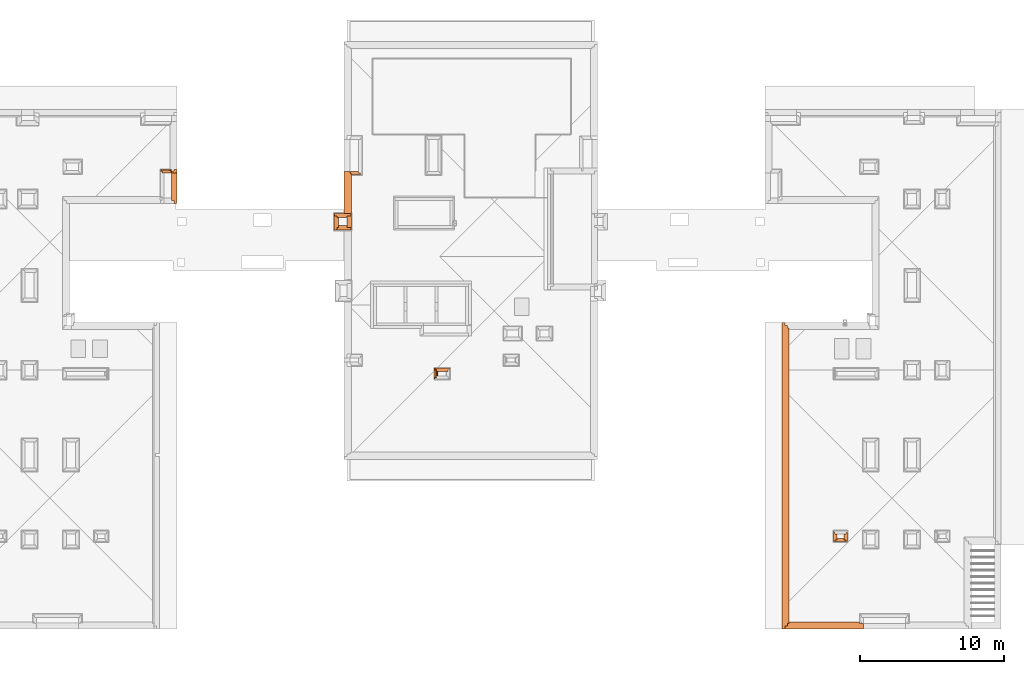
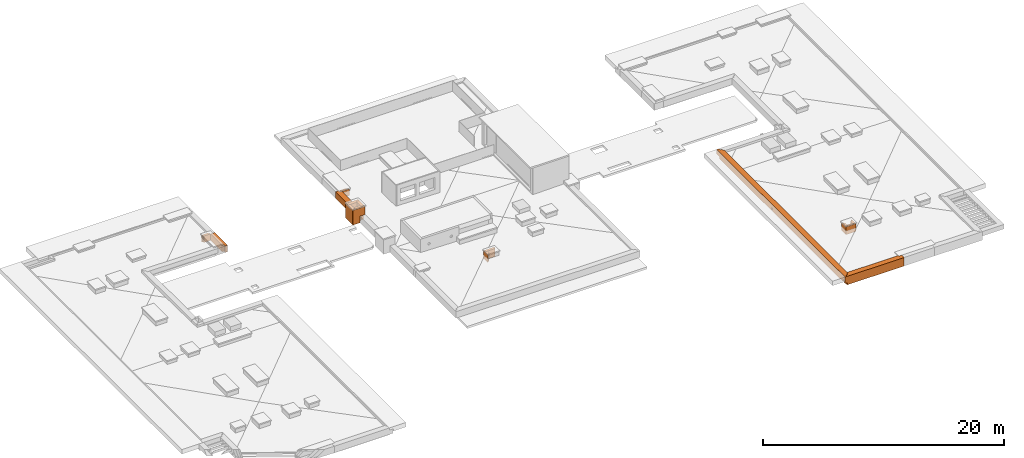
# One storey, part 10 of 16: 15 proxies.
"""IFC2X3 building model written with IfcOpenShell, lengths in millimetres."""

from ifc_helpers import new_model, entity, si_unit, converted_unit, derived_unit, money_unit, direction, frame, origin_with_axes, place, context, subcontext, project, spatial, faceted_brep, material, material_list, type_object, element, save


model = new_model("IFC2X3")

# Units and contexts
model_context = context("Model", 3, precision=0.01, world=origin_with_axes(), true_north=direction((0.34421633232, 0.938890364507)))
body_context = subcontext(model_context, "Body", "Model", "MODEL_VIEW")
ifc_project = project(units=[si_unit("LENGTHUNIT", "METRE", prefix="MILLI"), si_unit("AREAUNIT", "SQUARE_METRE"), si_unit("VOLUMEUNIT", "CUBIC_METRE"), converted_unit("PLANEANGLEUNIT", "DEGREE", entity("IfcPlaneAngleMeasure", 0.0174532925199), si_unit("PLANEANGLEUNIT", "RADIAN"), dimensions=[0, 0, 0, 0, 0, 0, 0]), si_unit("SOLIDANGLEUNIT", "STERADIAN"), money_unit("USD"), converted_unit("TIMEUNIT", "Year", entity("IfcTimeMeasure", 31556926.0), si_unit("TIMEUNIT", "SECOND"), dimensions=[0, 0, 1, 0, 0, 0, 0]), si_unit("MASSUNIT", "GRAM", prefix="KILO"), si_unit("THERMODYNAMICTEMPERATUREUNIT", "DEGREE_CELSIUS"), si_unit("LUMINOUSINTENSITYUNIT", "LUMEN"), si_unit("ENERGYUNIT", "JOULE", prefix="MEGA"), derived_unit("THERMALCONDUCTANCEUNIT", [(si_unit("POWERUNIT", "WATT"), 1), (si_unit("LENGTHUNIT", "METRE"), -1), (si_unit("THERMODYNAMICTEMPERATUREUNIT", "KELVIN"), -1)]), derived_unit("SPECIFICHEATCAPACITYUNIT", [(si_unit("ENERGYUNIT", "JOULE"), 1), (si_unit("MASSUNIT", "GRAM", prefix="KILO"), -1), (si_unit("THERMODYNAMICTEMPERATUREUNIT", "KELVIN"), -1)]), derived_unit("MASSDENSITYUNIT", [(si_unit("MASSUNIT", "GRAM", prefix="KILO"), 1), (si_unit("VOLUMEUNIT", "CUBIC_METRE"), -1)])], contexts=[model_context])

# Site, building, storey
site_placement = place(None, origin_with_axes())
site = spatial("IfcSite", under=ifc_project, at=site_placement, Name="USTRONIE MORSKIE", CompositionType="ELEMENT")
building_placement = place(site_placement, origin_with_axes())
building = spatial("IfcBuilding", under=site, at=building_placement, Name="Budynek", CompositionType="ELEMENT")
storey_placement = place(building_placement, frame((0.0, 0.0, 19000.0), z_axis=(0.0, 0.0, 1.0), x_axis=(1.0, 0.0, 0.0)))
storey = spatial("IfcBuildingStorey", under=building, at=storey_placement, Name="DACH", CompositionType="ELEMENT", Elevation=19000.0)

# Proxies
ifc_material_1 = material(Name="Tynk zewnętrzny")
ifc_material_2 = material(Name="Wełna ELEW")
ifc_material_3 = material(Name="Bloczki silikatowe")
ifc_material_list_1 = material_list([ifc_material_1, ifc_material_2, ifc_material_3, ifc_material_2, ifc_material_1])
building_element_proxy_type_1 = type_object("IfcBuildingElementProxyType", Name="18 SILIKAT+20-10 500", PredefinedType="NOTDEFINED")
proxy_1_placement = place(storey_placement, frame((379217.920919, 737501.202288, -160.0), z_axis=(0.0, 0.0, 1.0), x_axis=(0.0, 1.0, 0.0)))
element("IfcBuildingElementProxy", 1, at=proxy_1_placement, inside=storey, type_object=building_element_proxy_type_1, material=ifc_material_list_1, Name="Œciana-006", context=body_context, shape_type="Brep", body=[
    faceted_brep([(310.0, 200.0, 660.0), (3219.99674807, 200.0, 660.0), (3219.99674807, 210.0, 660.0), (310.0, 210.0, 660.0), (310.0, 200.0, 0.0), (3219.99674807, 200.0, 0.0), (3219.99674807, 210.0, 0.0), (310.0, 210.0, 0.0)], [[[0, 1, 2, 3]], [[4, 5, 1, 0]], [[2, 1, 5, 6]], [[3, 2, 6, 7]], [[3, 7, 4, 0]], [[7, 6, 5, 4]]]),
    faceted_brep([(3219.99674807, 200.0, 660.0), (120.0, 200.0, 660.0), (120.0, 0.0, 660.0), (3219.99674807, 0.0, 660.0), (3219.99674807, 200.0, 0.0), (120.0, 200.0, 0.0), (120.0, 0.0, 0.0), (3219.99674807, 0.0, 0.0)], [[[0, 1, 2, 3]], [[4, 5, 1, 0]], [[6, 2, 1, 5]], [[3, 2, 6, 7]], [[7, 4, 0, 3]], [[7, 6, 5, 4]]]),
    faceted_brep([(3219.99674807, 0.0, 660.0), (0.0, 0.0, 660.0), (0.0, -180.0, 660.0), (3219.99674807, -180.0, 660.0), (3219.99674807, 0.0, 0.0), (0.0, 0.0, 0.0), (0.0, -180.0, 0.0), (3219.99674807, -180.0, 0.0)], [[[0, 1, 2, 3]], [[4, 5, 1, 0]], [[6, 2, 1, 5]], [[3, 2, 6, 7]], [[7, 4, 0, 3]], [[7, 6, 5, 4]]]),
    faceted_brep([(3099.99674807, -280.0, 660.0), (0.0, -280.0, 660.0), (0.0, -280.0, 5.0), (3099.99674807, -280.0, 5.0), (3099.99674807, -180.0, 660.0), (0.0, -180.0, 660.0), (0.0, -180.0, 5.0), (3099.99674807, -180.0, 5.0)], [[[0, 1, 2, 3]], [[4, 5, 1, 0]], [[1, 5, 6, 2]], [[2, 6, 7, 3]], [[4, 0, 3, 7]], [[5, 4, 7, 6]]]),
    faceted_brep([(0.0, -290.0, 660.0), (0.0, -290.0, 519.111987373), (2999.99674807, -290.0, 519.111987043), (2999.99674807, -290.0, 660.0), (0.0, -280.0, 660.0), (0.0, -279.999985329, 519.311987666), (2999.99674807, -279.999985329, 519.311987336), (2999.99674807, -280.0, 660.0)], [[[0, 1, 2, 3]], [[4, 5, 1, 0]], [[5, 6, 2, 1]], [[3, 2, 6, 7]], [[7, 4, 0, 3]], [[7, 6, 5, 4]]]),
])
proxy_2_placement = place(storey_placement, frame((415117.922503, 709101.199036, -360.0), z_axis=(0.0, 0.0, 1.0), x_axis=(-1.0, 0.0, 0.0)))
element("IfcBuildingElementProxy", 2, at=proxy_2_placement, inside=storey, type_object=building_element_proxy_type_1, material=ifc_material_list_1, Name="Œciana-006", context=body_context, shape_type="Brep", body=[
    faceted_brep([(5650.00158398, 200.0, 200.0), (5650.00158398, 200.0, 860.0), (0.0, 200.0, 860.0), (0.0, 200.0, 0.0), (5450.00158398, 200.0, 0.0), (5450.00158398, 200.0, 200.0), (5650.00158398, 210.0, 860.0), (5650.00158398, 210.0, 200.0), (0.0, 210.0, 860.0), (0.0, 210.0, 0.0), (5450.00158398, 210.0, 0.0), (5450.00158398, 210.0, 200.0)], [[[0, 1, 2, 3, 4, 5]], [[6, 1, 0, 7]], [[1, 6, 8, 2]], [[9, 3, 2, 8]], [[9, 10, 4, 3]], [[11, 5, 4, 10]], [[7, 0, 5, 11]], [[6, 7, 11, 10, 9, 8]]]),
    faceted_brep([(5450.00158398, 0.0, 0.0), (5450.00158398, 0.0, 200.0), (5450.00158398, 0.0, 860.0), (0.0, 0.0, 860.0), (0.0, 0.0, 0.0), (5450.00158398, 200.0, 0.0), (5450.00158398, 200.0, 200.0), (5450.00158398, 200.0, 860.0), (0.0, 200.0, 860.0), (0.0, 200.0, 0.0)], [[[0, 1, 2, 3, 4]], [[5, 6, 1, 0]], [[6, 7, 2, 1]], [[3, 2, 7, 8]], [[8, 9, 4, 3]], [[4, 9, 5, 0]], [[8, 7, 6, 5, 9]]]),
    faceted_brep([(0.0, 0.0, 200.0), (0.0, -180.0, 200.0), (0.0, -180.0, 860.0), (0.0, 0.0, 860.0), (5270.00158398, -180.0, 200.0), (5270.00158398, 0.0, 200.0), (5270.00158398, -180.0, 860.0), (5270.00158398, 0.0, 860.0)], [[[0, 1, 2, 3]], [[4, 1, 0, 5]], [[1, 4, 6, 2]], [[2, 6, 7, 3]], [[5, 0, 3, 7]], [[4, 5, 7, 6]]]),
    faceted_brep([(120.0, -180.0, 205.0), (120.0, -280.0, 205.0), (120.0, -280.0, 740.0), (120.0, -180.0, 740.0), (5170.00158398, -280.0, 205.0), (5170.00158398, -180.0, 205.0), (5170.00158398, -280.0, 860.0), (280.001583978, -280.0, 860.0), (280.001583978, -280.0, 740.0), (280.001583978, -180.0, 740.0), (280.001583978, -180.0, 860.0), (5170.00158398, -180.0, 860.0)], [[[0, 1, 2, 3]], [[4, 1, 0, 5]], [[1, 4, 6, 7, 8, 2]], [[3, 2, 8, 9]], [[5, 0, 3, 9, 10, 11]], [[4, 5, 11, 6]], [[10, 7, 6, 11]], [[8, 7, 10, 9]]]),
    faceted_brep([(220.0, -280.0, 205.0), (220.0, -290.0, 205.0), (220.0, -290.0, 740.0), (220.0, -280.0, 740.0), (5160.00158398, -290.0, 205.0), (5160.00158398, -280.0, 205.0), (5160.00158398, -290.0, 860.0), (280.001583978, -290.0, 860.0), (280.001583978, -290.0, 740.0), (280.001583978, -280.0, 740.0), (280.001583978, -280.0, 860.0), (5160.00158398, -280.0, 860.0)], [[[0, 1, 2, 3]], [[4, 1, 0, 5]], [[1, 4, 6, 7, 8, 2]], [[3, 2, 8, 9]], [[5, 0, 3, 9, 10, 11]], [[4, 5, 11, 6]], [[10, 7, 6, 11]], [[8, 7, 10, 9]]]),
])
proxy_3_placement = place(storey_placement, frame((409667.920919, 730001.199019, -160.0), z_axis=(0.0, 0.0, 1.0), x_axis=(0.0, -1.0, 0.0)))
element("IfcBuildingElementProxy", 3, at=proxy_3_placement, inside=storey, type_object=building_element_proxy_type_1, material=ifc_material_list_1, Name="Œciana-006", context=body_context, shape_type="Brep", body=[
    faceted_brep([(20619.9999825, 290.0, 5.0), (280.0, 290.0, 5.0), (280.0, 290.0, 660.0), (20619.9999825, 290.0, 660.0), (280.0, 280.0, 5.0), (20619.9999825, 280.0, 5.0), (280.0, 280.0, 660.0), (20619.9999825, 280.0, 660.0)], [[[0, 1, 2, 3]], [[4, 1, 0, 5]], [[1, 4, 6, 2]], [[7, 3, 2, 6]], [[5, 0, 3, 7]], [[4, 5, 7, 6]]]),
    faceted_brep([(20719.9999825, 280.0, 5.0), (180.0, 280.0, 5.0), (180.0, 280.0, 660.0), (20719.9999825, 280.0, 660.0), (180.0, 180.0, 5.0), (20719.9999825, 180.0, 5.0), (180.0, 180.0, 660.0), (20719.9999825, 180.0, 660.0)], [[[0, 1, 2, 3]], [[4, 1, 0, 5]], [[1, 4, 6, 2]], [[7, 3, 2, 6]], [[5, 0, 3, 7]], [[4, 5, 7, 6]]]),
    faceted_brep([(20699.9999825, 100.0, 0.0), (20699.9999825, 0.0, 0.0), (9099.99998246, 0.0, 0.0), (9099.99998246, 100.0, 0.0), (8899.99998246, 100.0, 0.0), (8899.99998246, 0.0, 0.0), (200.000346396, 0.0, 0.0), (200.000346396, 100.0, 0.0), (0.000346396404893, 100.0, 0.0), (0.0, 180.0, 0.0), (20899.9999825, 180.0, 0.0), (20899.9999825, 100.0, 0.0), (20699.9999825, 100.0, 210.000000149), (20699.9999825, 0.0, 210.000000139), (20899.9999825, 0.0, 210.000000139), (20899.9999825, 0.0, 660.0), (0.0, 0.0, 660.0), (0.000346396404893, 0.0, 210.000000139), (200.000346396, 0.0, 210.000000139), (8899.99998246, 0.0, 310.0), (9099.99998246, 0.0, 310.0), (9099.99998246, 100.0, 310.0), (8899.99998246, 100.0, 310.0), (200.000346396, 100.0, 210.000000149), (0.000346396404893, 100.0, 210.000000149), (0.0, 180.0, 660.0), (20899.9999825, 180.0, 660.0), (20899.9999825, 100.0, 210.000000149)], [[[0, 1, 2, 3, 4, 5, 6, 7, 8, 9, 10, 11]], [[1, 0, 12, 13]], [[13, 14, 15, 16, 17, 18, 6, 5, 19, 20, 2, 1]], [[3, 2, 20, 21]], [[4, 3, 21, 22]], [[5, 4, 22, 19]], [[7, 6, 18, 23]], [[24, 8, 7, 23]], [[24, 17, 16, 25, 9, 8]], [[26, 10, 9, 25]], [[27, 11, 10, 26, 15, 14]], [[0, 11, 27, 12]], [[27, 14, 13, 12]], [[15, 26, 25, 16]], [[17, 24, 23, 18]], [[20, 19, 22, 21]]]),
    faceted_brep([(20899.9999825, 0.0, 0.0), (20899.9999825, 0.0, 210.000000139), (20699.9999825, 0.0, 210.000000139), (20699.9999825, 0.0, 0.0), (9099.99998246, 0.0, 0.0), (9099.99998246, 0.0, 310.0), (8899.99998246, 0.0, 310.0), (8899.99998246, 0.0, 0.0), (250.000346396, 0.0, 0.0), (250.000346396, 0.0, 210.000000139), (-199.999653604, 0.0, 210.000000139), (-200.0, 0.0, 660.0), (21099.9999825, 0.0, 660.0), (21099.9999825, 0.0, 0.0), (20899.9999825, -200.0, 0.0), (20899.9999825, -200.0, 210.000000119), (20699.9999825, -200.0, 210.000000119), (20699.9999825, -200.0, 0.0), (9099.99998246, -200.0, 0.0), (9099.99998246, -200.0, 310.0), (8899.99998246, -200.0, 310.0), (8899.99998246, -200.0, 0.0), (250.000346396, -200.0, 0.0), (250.000346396, -200.0, 210.000000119), (-199.999653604, -200.0, 210.000000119), (-200.0, -200.0, 660.0), (21099.9999825, -200.0, 660.0), (21099.9999825, -200.0, 0.0)], [[[0, 1, 2, 3, 4, 5, 6, 7, 8, 9, 10, 11, 12, 13]], [[1, 0, 14, 15]], [[2, 1, 15, 16]], [[3, 2, 16, 17]], [[3, 17, 18, 4]], [[5, 4, 18, 19]], [[6, 5, 19, 20]], [[7, 6, 20, 21]], [[22, 8, 7, 21]], [[9, 8, 22, 23]], [[24, 10, 9, 23]], [[10, 24, 25, 11]], [[26, 12, 11, 25]], [[27, 13, 12, 26]], [[14, 0, 13, 27]], [[15, 14, 27, 26, 25, 24, 23, 22, 21, 20, 19, 18, 17, 16]]]),
    faceted_brep([(20649.9999825, -200.0, 210.000000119), (20649.9999825, -200.0, 0.0), (9099.99998246, -200.0, 0.0), (9099.99998246, -200.0, 310.0), (8899.99998246, -200.0, 310.0), (8899.99998246, -200.0, 0.0), (260.000346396, -200.0, 0.0), (260.000346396, -200.0, 210.000000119), (-209.999653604, -200.0, 210.000000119), (-210.0, -200.0, 660.0), (21109.9999825, -200.0, 660.0), (21109.9999825, -200.0, 0.0), (21099.9999825, -200.0, 0.0), (21099.9999825, -200.0, 210.000000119), (20649.9999825, -210.0, 0.0), (20649.9999825, -210.0, 210.000000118), (9099.99998246, -210.0, 0.0), (9099.99998246, -210.0, 310.0), (8899.99998246, -210.0, 310.0), (8899.99998246, -210.0, 0.0), (260.000346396, -210.0, 0.0), (260.000346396, -210.0, 210.000000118), (-209.999653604, -210.0, 210.000000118), (-210.0, -210.0, 660.0), (21109.9999825, -210.0, 660.0), (21109.9999825, -210.0, 0.0), (21099.9999825, -210.0, 0.0), (21099.9999825, -210.0, 210.000000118)], [[[0, 1, 2, 3, 4, 5, 6, 7, 8, 9, 10, 11, 12, 13]], [[14, 1, 0, 15]], [[2, 1, 14, 16]], [[17, 3, 2, 16]], [[18, 4, 3, 17]], [[19, 5, 4, 18]], [[19, 20, 6, 5]], [[21, 7, 6, 20]], [[22, 8, 7, 21]], [[9, 8, 22, 23]], [[23, 24, 10, 9]], [[24, 25, 11, 10]], [[25, 26, 12, 11]], [[27, 13, 12, 26]], [[15, 0, 13, 27]], [[14, 15, 27, 26, 25, 24, 23, 22, 21, 20, 19, 18, 17, 16]]]),
])
ifc_material_list_2 = material_list([ifc_material_3, ifc_material_2, ifc_material_1])
building_element_proxy_type_2 = type_object("IfcBuildingElementProxyType", Name="12+18_TERMO 310", PredefinedType="NOTDEFINED")
proxy_4_placement = place(storey_placement, frame((378617.937739, 736951.199036, -160.0), z_axis=(0.0, 0.0, 1.0), x_axis=(1.0, 0.0, 0.0)))
element("IfcBuildingElementProxy", 4, at=proxy_4_placement, inside=storey, type_object=building_element_proxy_type_2, material=ifc_material_list_2, Name="Œciana-006", context=body_context, shape_type="Brep", body=[
    faceted_brep([(599.983179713, -120.0, 1480.0), (599.983179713, -120.0, 0.0), (599.983179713, 0.0, 0.0), (599.983179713, 0.0, 1480.0), (0.0, -120.0, 0.0), (0.0, -120.0, 1480.0), (0.0, 0.0, 0.0), (0.0, 0.0, 1480.0)], [[[0, 1, 2, 3]], [[4, 1, 0, 5]], [[6, 2, 1, 4]], [[3, 2, 6, 7]], [[5, 0, 3, 7]], [[5, 7, 6, 4]]]),
    faceted_brep([(399.983179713, -120.0, 660.0), (399.983179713, -120.0, 0.0), (-120.0, -120.0, 0.0), (-120.0, -120.0, 1480.0), (879.983179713, -120.0, 1480.0), (879.983179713, -120.0, 660.0), (399.983179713, -300.0, 0.0), (399.983179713, -300.0, 660.0), (-120.0, -300.0, 0.0), (-120.0, -300.0, 1480.0), (879.983179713, -300.0, 1480.0), (879.983179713, -300.0, 660.0)], [[[0, 1, 2, 3, 4, 5]], [[6, 1, 0, 7]], [[2, 1, 6, 8]], [[9, 3, 2, 8]], [[9, 10, 4, 3]], [[10, 11, 5, 4]], [[11, 7, 0, 5]], [[6, 7, 11, 10, 9, 8]]]),
    faceted_brep([(399.983179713, -300.0, 660.0), (399.983179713, -300.0, 0.0), (-300.0, -300.0, 0.0), (-300.0, -300.0, 1480.0), (889.983179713, -300.0, 1480.0), (889.983179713, -300.0, 660.0), (399.983179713, -310.0, 0.0), (399.983179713, -310.0, 660.0), (-300.0, -310.0, 0.0), (-300.0, -310.0, 1480.0), (889.983179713, -310.0, 1480.0), (889.983179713, -310.0, 660.0)], [[[0, 1, 2, 3, 4, 5]], [[6, 1, 0, 7]], [[2, 1, 6, 8]], [[9, 3, 2, 8]], [[3, 9, 10, 4]], [[10, 11, 5, 4]], [[11, 7, 0, 5]], [[6, 7, 11, 10, 9, 8]]]),
])
proxy_5_placement = place(storey_placement, frame((378617.937739, 737501.202288, -160.0), z_axis=(0.0, 0.0, 1.0), x_axis=(0.0, -1.0, 0.0)))
element("IfcBuildingElementProxy", 5, at=proxy_5_placement, inside=storey, type_object=building_element_proxy_type_2, material=ifc_material_list_2, Name="Œciana-006", context=body_context, shape_type="Brep", body=[
    faceted_brep([(670.00325193, 0.0, 0.0), (670.00325193, -120.0, 0.0), (0.0, -120.0, 0.0), (0.0, 0.0, 0.0), (670.00325193, 0.0, 1480.0), (670.00325193, -120.0, 1480.0), (0.0, -120.0, 1480.0), (0.0, 0.0, 1480.0)], [[[0, 1, 2, 3]], [[1, 0, 4, 5]], [[1, 5, 6, 2]], [[7, 3, 2, 6]], [[4, 0, 3, 7]], [[5, 4, 7, 6]]]),
    faceted_brep([(850.003251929, -120.0, 0.0), (850.003251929, -300.0, 0.0), (-120.0, -300.0, 0.0), (-120.0, -120.0, 0.0), (850.003251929, -120.0, 1480.0), (850.003251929, -300.0, 1480.0), (-120.0, -300.0, 1480.0), (-120.0, -120.0, 1480.0)], [[[0, 1, 2, 3]], [[1, 0, 4, 5]], [[1, 5, 6, 2]], [[7, 3, 2, 6]], [[4, 0, 3, 7]], [[5, 4, 7, 6]]]),
    faceted_brep([(860.003251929, -300.0, 0.0), (860.003251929, -310.0, 0.0), (-300.0, -310.0, 0.0), (-300.0, -300.0, 0.0), (860.003251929, -300.0, 1480.0), (860.003251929, -310.0, 1480.0), (-300.0, -310.0, 1480.0), (-300.0, -300.0, 1480.0)], [[[0, 1, 2, 3]], [[1, 0, 4, 5]], [[1, 5, 6, 2]], [[7, 3, 2, 6]], [[4, 0, 3, 7]], [[5, 4, 7, 6]]]),
])
proxy_6_placement = place(storey_placement, frame((379217.920919, 737501.202288, -160.0), z_axis=(0.0, 0.0, 1.0), x_axis=(-1.0, 0.0, 0.0)))
element("IfcBuildingElementProxy", 6, at=proxy_6_placement, inside=storey, type_object=building_element_proxy_type_2, material=ifc_material_list_2, Name="Œciana-006", context=body_context, shape_type="Brep", body=[
    faceted_brep([(0.0, 0.0, 1480.0), (0.0, 0.0, 0.0), (0.0, -120.0, 0.0), (0.0, -120.0, 1480.0), (719.983179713, 0.0, 0.0), (719.983179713, 0.0, 1480.0), (719.983179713, -120.0, 0.0), (719.983179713, -120.0, 1480.0)], [[[0, 1, 2, 3]], [[4, 1, 0, 5]], [[6, 2, 1, 4]], [[3, 2, 6, 7]], [[5, 0, 3, 7]], [[5, 7, 6, 4]]]),
    faceted_brep([(200.0, -300.0, 660.0), (200.0, -300.0, 0.0), (899.983179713, -300.0, 0.0), (899.983179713, -300.0, 1480.0), (-280.0, -300.0, 1480.0), (-280.0, -300.0, 660.0), (200.0, -120.0, 0.0), (200.0, -120.0, 660.0), (899.983179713, -120.0, 0.0), (899.983179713, -120.0, 1480.0), (-280.0, -120.0, 1480.0), (-280.0, -120.0, 660.0)], [[[0, 1, 2, 3, 4, 5]], [[6, 1, 0, 7]], [[2, 1, 6, 8]], [[9, 3, 2, 8]], [[9, 10, 4, 3]], [[10, 11, 5, 4]], [[11, 7, 0, 5]], [[6, 7, 11, 10, 9, 8]]]),
    faceted_brep([(200.0, -310.0, 660.0), (200.0, -310.0, 0.0), (909.983179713, -310.0, 0.0), (909.983179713, -310.0, 1480.0), (-290.0, -310.0, 1480.0), (-290.0, -310.0, 660.0), (200.0, -300.0, 0.0), (200.0, -300.0, 660.0), (909.983179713, -300.0, 0.0), (909.983179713, -300.0, 1480.0), (-290.0, -300.0, 1480.0), (-290.0, -300.0, 660.0)], [[[0, 1, 2, 3, 4, 5]], [[6, 1, 0, 7]], [[2, 1, 6, 8]], [[9, 3, 2, 8]], [[3, 9, 10, 4]], [[10, 11, 5, 4]], [[11, 7, 0, 5]], [[6, 7, 11, 10, 9, 8]]]),
])
building_element_proxy_type_3 = type_object("IfcBuildingElementProxyType", Name="12+10 kominy 230", PredefinedType="NOTDEFINED")
proxy_7_placement = place(storey_placement, frame((385517.921074, 726806.199036, -159.999998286), z_axis=(0.0, 0.0, 1.0), x_axis=(0.0, -1.0, 0.0)))
element("IfcBuildingElementProxy", 7, at=proxy_7_placement, inside=storey, type_object=building_element_proxy_type_3, material=ifc_material_list_2, Name="Œciana-006", context=body_context, shape_type="Brep", body=[
    faceted_brep([(300.0, 0.0, 0.0), (300.0, -120.0, 0.0), (0.0, -120.0, 0.0), (0.0, 0.0, 0.0), (300.0, 0.0, 800.0), (300.0, -120.0, 800.0), (0.0, -120.0, 800.0), (0.0, 0.0, 800.0)], [[[0, 1, 2, 3]], [[1, 0, 4, 5]], [[1, 5, 6, 2]], [[7, 3, 2, 6]], [[4, 0, 3, 7]], [[5, 4, 7, 6]]]),
    faceted_brep([(420.0, -120.0, 4.99999828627), (-120.0, -120.0, 4.99999828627), (-120.0, -120.0, 800.0), (420.0, -120.0, 800.0), (-120.0, -220.0, 4.99999828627), (420.0, -220.0, 4.99999828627), (-120.0, -220.0, 800.0), (420.0, -220.0, 800.0)], [[[0, 1, 2, 3]], [[4, 1, 0, 5]], [[1, 4, 6, 2]], [[7, 3, 2, 6]], [[5, 0, 3, 7]], [[4, 5, 7, 6]]]),
    faceted_brep([(520.0, -220.0, 4.99999828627), (-220.0, -220.0, 4.99999828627), (-220.0, -220.0, 800.0), (520.0, -220.0, 800.0), (-220.0, -230.0, 4.99999828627), (520.0, -230.0, 4.99999828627), (-220.0, -230.0, 800.0), (520.0, -230.0, 800.0)], [[[0, 1, 2, 3]], [[4, 1, 0, 5]], [[1, 4, 6, 2]], [[7, 3, 2, 6]], [[5, 0, 3, 7]], [[4, 5, 7, 6]]]),
])
ifc_material_list_3 = material_list([ifc_material_1, ifc_material_2, ifc_material_3])
proxy_8_placement = place(storey_placement, frame((413277.920919, 715201.190644, -160.0), z_axis=(0.0, 0.0, 1.0), x_axis=(0.0, 1.0, 0.0)))
element("IfcBuildingElementProxy", 8, at=proxy_8_placement, inside=storey, type_object=building_element_proxy_type_3, material=ifc_material_list_3, Name="Œciana-006", context=body_context, shape_type="Brep", body=[
    faceted_brep([(-230.0, 220.0, 5.0), (520.008836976, 220.0, 5.0), (520.008836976, 220.0, 800.000001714), (-230.0, 220.0, 800.000001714), (520.008836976, 230.0, 5.0), (-230.0, 230.0, 5.0), (520.008836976, 230.0, 800.000001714), (-230.0, 230.0, 800.000001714)], [[[0, 1, 2, 3]], [[4, 1, 0, 5]], [[1, 4, 6, 2]], [[2, 6, 7, 3]], [[5, 0, 3, 7]], [[4, 5, 7, 6]]]),
    faceted_brep([(-220.0, 120.0, 5.0), (420.008836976, 120.0, 5.0), (420.008836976, 120.0, 800.000001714), (-220.0, 120.0, 800.000001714), (420.008836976, 220.0, 5.0), (-220.0, 220.0, 5.0), (420.008836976, 220.0, 800.000001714), (-220.0, 220.0, 800.000001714)], [[[0, 1, 2, 3]], [[4, 1, 0, 5]], [[1, 4, 6, 2]], [[2, 6, 7, 3]], [[5, 0, 3, 7]], [[4, 5, 7, 6]]]),
    faceted_brep([(300.008836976, 0.0, 800.000001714), (300.008836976, 120.0, 800.000001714), (-120.0, 120.0, 800.000001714), (-120.0, 0.0, 800.000001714), (300.008836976, 0.0, 0.0), (300.008836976, 120.0, 0.0), (-120.0, 120.0, 0.0), (-120.0, 0.0, 0.0)], [[[0, 1, 2, 3]], [[1, 0, 4, 5]], [[1, 5, 6, 2]], [[7, 3, 2, 6]], [[4, 0, 3, 7]], [[5, 4, 7, 6]]]),
])
proxy_9_placement = place(storey_placement, frame((386117.921074, 726806.199036, -159.999998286), z_axis=(0.0, 0.0, 1.0), x_axis=(-1.0, 0.0, 0.0)))
element("IfcBuildingElementProxy", 9, at=proxy_9_placement, inside=storey, type_object=building_element_proxy_type_3, material=ifc_material_list_2, Name="Œciana-006", context=body_context, shape_type="Brep", body=[
    faceted_brep([(720.0, 0.0, 0.0), (720.0, -120.0, 0.0), (-120.0, -120.0, 0.0), (-120.0, 0.0, 0.0), (720.0, 0.0, 800.0), (720.0, -120.0, 800.0), (-120.0, -120.0, 800.0), (-120.0, 0.0, 800.0)], [[[0, 1, 2, 3]], [[1, 0, 4, 5]], [[1, 5, 6, 2]], [[7, 3, 2, 6]], [[4, 0, 3, 7]], [[5, 4, 7, 6]]]),
    faceted_brep([(-220.0, -120.0, 4.99999828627), (-220.0, -220.0, 4.99999828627), (-220.0, -220.0, 800.0), (-220.0, -120.0, 800.0), (820.0, -220.0, 4.99999828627), (820.0, -120.0, 4.99999828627), (820.0, -220.0, 800.0), (820.0, -120.0, 800.0)], [[[0, 1, 2, 3]], [[4, 1, 0, 5]], [[1, 4, 6, 2]], [[6, 7, 3, 2]], [[5, 0, 3, 7]], [[4, 5, 7, 6]]]),
    faceted_brep([(-230.0, -220.0, 4.99999828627), (-230.0, -230.0, 4.99999828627), (-230.0, -230.0, 800.0), (-230.0, -220.0, 800.0), (830.0, -230.0, 4.99999828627), (830.0, -220.0, 4.99999828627), (830.0, -230.0, 800.0), (830.0, -220.0, 800.0)], [[[0, 1, 2, 3]], [[4, 1, 0, 5]], [[1, 4, 6, 2]], [[6, 7, 3, 2]], [[5, 0, 3, 7]], [[4, 5, 7, 6]]]),
])
proxy_10_placement = place(storey_placement, frame((380017.924326, 740721.199036, -159.999998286), z_axis=(0.0, 0.0, 1.0), x_axis=(-1.0, 0.0, 0.0)))
element("IfcBuildingElementProxy", 10, at=proxy_10_placement, inside=storey, type_object=building_element_proxy_type_3, material=ifc_material_list_3, Name="Œciana-006", context=body_context, shape_type="Brep", body=[
    faceted_brep([(-220.0, 230.0, 4.99999828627), (-220.0, 220.0, 4.99999828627), (-220.0, 220.0, 659.999998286), (-220.0, 230.0, 659.999998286), (510.003407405, 220.0, 4.99999828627), (510.003407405, 230.0, 4.99999828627), (510.003407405, 220.0, 659.999998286), (510.003407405, 230.0, 659.999998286)], [[[0, 1, 2, 3]], [[4, 1, 0, 5]], [[1, 4, 6, 2]], [[2, 6, 7, 3]], [[5, 0, 3, 7]], [[4, 5, 7, 6]]]),
    faceted_brep([(-120.0, 220.0, 4.99999828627), (-120.0, 120.0, 4.99999828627), (-120.0, 120.0, 659.999998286), (-120.0, 220.0, 659.999998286), (520.003407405, 120.0, 4.99999828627), (520.003407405, 220.0, 4.99999828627), (520.003407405, 120.0, 659.999998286), (520.003407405, 220.0, 659.999998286)], [[[0, 1, 2, 3]], [[4, 1, 0, 5]], [[1, 4, 6, 2]], [[2, 6, 7, 3]], [[5, 0, 3, 7]], [[4, 5, 7, 6]]]),
    faceted_brep([(0.0, 0.0, -4.22037516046e-07), (620.003407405, 0.0, -1.71373315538e-06), (620.003407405, 0.0, 659.999998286), (0.0, 0.0, 659.999998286), (0.0, 120.0, -4.22037516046e-07), (620.003407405, 120.0, -1.71373315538e-06), (620.003407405, 120.0, 659.999998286), (0.0, 120.0, 659.999998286)], [[[0, 1, 2, 3]], [[4, 5, 1, 0]], [[5, 6, 2, 1]], [[3, 2, 6, 7]], [[4, 0, 3, 7]], [[7, 6, 5, 4]]]),
])
proxy_11_placement = place(storey_placement, frame((367167.920919, 740621.179476, -160.0), z_axis=(0.0, 0.0, 1.0), x_axis=(-1.0, 0.0, 0.0)))
element("IfcBuildingElementProxy", 11, at=proxy_11_placement, inside=storey, type_object=building_element_proxy_type_3, material=ifc_material_list_2, Name="Œciana-006", context=body_context, shape_type="Brep", body=[
    faceted_brep([(820.0, 0.0, 660.0), (180.0, 0.0, 660.0), (180.0, -120.0, 660.0), (820.0, -120.0, 660.0), (200.0, 0.0, 210.0), (180.0, 0.0, 210.0), (820.0, 0.0, 0.0), (200.0, 0.0, 0.0), (180.0, -120.0, 210.0), (200.0, -120.0, 210.0), (200.0, -120.0, 0.0), (820.0, -120.0, 0.0)], [[[0, 1, 2, 3]], [[4, 5, 1, 0, 6, 7]], [[5, 8, 2, 1]], [[3, 2, 8, 9, 10, 11]], [[0, 3, 11, 6]], [[9, 8, 5, 4]], [[11, 10, 7, 6]], [[7, 10, 9, 4]]]),
    faceted_brep([(200.0, -120.0, 5.0), (200.0, -220.0, 5.0), (200.0, -220.0, 210.0), (200.0, -120.0, 210.0), (920.0, -220.0, 5.0), (920.0, -120.0, 5.0), (920.0, -220.0, 660.0), (280.0, -220.0, 660.0), (280.0, -220.0, 210.0), (280.0, -120.0, 210.0), (280.0, -120.0, 660.0), (920.0, -120.0, 660.0)], [[[0, 1, 2, 3]], [[4, 1, 0, 5]], [[1, 4, 6, 7, 8, 2]], [[9, 3, 2, 8]], [[5, 0, 3, 9, 10, 11]], [[4, 5, 11, 6]], [[11, 10, 7, 6]], [[9, 8, 7, 10]]]),
    faceted_brep([(200.0, -220.0, 5.0), (200.0, -230.0, 5.0), (200.0, -230.0, 210.0), (200.0, -220.0, 210.0), (930.0, -230.0, 5.0), (930.0, -220.0, 5.0), (930.0, -230.0, 660.0), (290.0, -230.0, 660.0), (290.0, -230.0, 210.0), (290.0, -220.0, 210.0), (290.0, -220.0, 660.0), (930.0, -220.0, 660.0)], [[[0, 1, 2, 3]], [[4, 1, 0, 5]], [[1, 4, 6, 7, 8, 2]], [[9, 3, 2, 8]], [[5, 0, 3, 9, 10, 11]], [[4, 5, 11, 6]], [[11, 10, 7, 6]], [[9, 8, 7, 10]]]),
    faceted_brep([(-200.0, -230.0, 210.0), (-210.0, -230.0, 210.0), (-210.0, -230.0, 0.0), (-200.0, -230.0, 0.0), (-210.0, -220.0, 210.0), (-200.0, -220.0, 210.0), (-210.0, -220.0, 0.0), (-200.0, -220.0, 0.0)], [[[0, 1, 2, 3]], [[4, 1, 0, 5]], [[1, 4, 6, 2]], [[7, 3, 2, 6]], [[5, 0, 3, 7]], [[4, 5, 7, 6]]]),
])
proxy_12_placement = place(storey_placement, frame((413777.920919, 715201.190644, -160.0), z_axis=(0.0, 0.0, 1.0), x_axis=(-1.0, 0.0, 0.0)))
element("IfcBuildingElementProxy", 12, at=proxy_12_placement, inside=storey, type_object=building_element_proxy_type_3, material=ifc_material_list_3, Name="Œciana-006", context=body_context, shape_type="Brep", body=[
    faceted_brep([(-219.999994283, 230.0, 5.0), (-219.999994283, 220.0, 5.0), (-219.999994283, 220.0, 800.000001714), (-219.999994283, 230.0, 800.000001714), (719.999999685, 220.0, 5.0), (719.999999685, 230.0, 5.0), (719.999999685, 220.0, 800.000001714), (719.999999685, 230.0, 800.000001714)], [[[0, 1, 2, 3]], [[4, 1, 0, 5]], [[1, 4, 6, 2]], [[6, 7, 3, 2]], [[5, 0, 3, 7]], [[4, 5, 7, 6]]]),
    faceted_brep([(-119.999994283, 220.0, 5.0), (-119.999994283, 120.0, 5.0), (-119.999994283, 120.0, 800.000001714), (-119.999994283, 220.0, 800.000001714), (619.999999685, 120.0, 5.0), (619.999999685, 220.0, 5.0), (619.999999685, 120.0, 800.000001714), (619.999999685, 220.0, 800.000001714)], [[[0, 1, 2, 3]], [[4, 1, 0, 5]], [[1, 4, 6, 2]], [[6, 7, 3, 2]], [[5, 0, 3, 7]], [[4, 5, 7, 6]]]),
    faceted_brep([(499.999999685, 0.0, 800.000001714), (499.999999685, 120.0, 800.000001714), (5.71679947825e-06, 120.0, 800.000001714), (5.71679947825e-06, 0.0, 800.000001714), (499.999999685, 0.0, 0.0), (499.999999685, 120.0, 0.0), (5.71679947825e-06, 120.0, 0.0), (5.71679947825e-06, 0.0, 0.0)], [[[0, 1, 2, 3]], [[1, 0, 4, 5]], [[1, 5, 6, 2]], [[7, 3, 2, 6]], [[4, 0, 3, 7]], [[5, 4, 7, 6]]]),
])
proxy_13_placement = place(storey_placement, frame((413777.920913, 715201.190644, -160.0), z_axis=(0.0, 0.0, 1.0), x_axis=(0.0, 1.0, 0.0)))
element("IfcBuildingElementProxy", 13, at=proxy_13_placement, inside=storey, type_object=building_element_proxy_type_3, material=ifc_material_list_2, Name="Œciana-006", context=body_context, shape_type="Brep", body=[
    faceted_brep([(300.008836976, 0.0, 0.0), (300.008836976, -120.0, 0.0), (-120.0, -120.0, 0.0), (-120.0, 0.0, 0.0), (300.008836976, 0.0, 800.000001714), (300.008836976, -120.0, 800.000001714), (-120.0, -120.0, 800.000001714), (-120.0, 0.0, 800.000001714)], [[[0, 1, 2, 3]], [[1, 0, 4, 5]], [[1, 5, 6, 2]], [[7, 3, 2, 6]], [[4, 0, 3, 7]], [[5, 4, 7, 6]]]),
    faceted_brep([(-220.0, -220.0, 5.0), (420.008836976, -220.0, 5.0), (420.008836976, -220.0, 800.000001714), (-220.0, -220.0, 800.000001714), (420.008836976, -120.0, 5.0), (-220.0, -120.0, 5.0), (420.008836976, -120.0, 800.000001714), (-220.0, -120.0, 800.000001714)], [[[0, 1, 2, 3]], [[4, 1, 0, 5]], [[1, 4, 6, 2]], [[2, 6, 7, 3]], [[5, 0, 3, 7]], [[4, 5, 7, 6]]]),
    faceted_brep([(-230.0, -230.0, 5.0), (520.008836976, -230.0, 5.0), (520.008836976, -230.0, 800.000001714), (-230.0, -230.0, 800.000001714), (520.008836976, -220.0, 5.0), (-230.0, -220.0, 5.0), (520.008836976, -220.0, 800.000001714), (-230.0, -220.0, 800.000001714)], [[[0, 1, 2, 3]], [[4, 1, 0, 5]], [[1, 4, 6, 2]], [[2, 6, 7, 3]], [[5, 0, 3, 7]], [[4, 5, 7, 6]]]),
])
building_element_proxy_type_4 = type_object("IfcBuildingElementProxyType", Name="18 SILIKAT+-10 290", PredefinedType="NOTDEFINED")
proxy_14_placement = place(storey_placement, frame((379217.920919, 737501.202288, -160.0), z_axis=(0.0, 0.0, 1.0), x_axis=(0.0, -1.0, 0.0)))
element("IfcBuildingElementProxy", 14, at=proxy_14_placement, inside=storey, type_object=building_element_proxy_type_4, material=ifc_material_list_3, Name="Œciana-006", context=body_context, shape_type="Brep", body=[
    faceted_brep([(550.00325193, 290.0, 519.111987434), (0.0, 290.0, 519.111987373), (0.0, 290.0, 660.0), (-300.0, 290.0, 660.0), (-300.0, 290.0, 1480.0), (850.003251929, 290.0, 1480.0), (850.003251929, 290.0, 660.0), (550.00325193, 290.0, 660.0), (0.0, 279.999985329, 519.311987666), (550.00325193, 279.999985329, 519.311987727), (0.0, 280.0, 660.0), (-300.0, 280.0, 660.0), (-300.0, 280.0, 1480.0), (850.003251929, 280.0, 1480.0), (850.003251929, 280.0, 660.0), (550.00325193, 280.0, 660.0)], [[[0, 1, 2, 3, 4, 5, 6, 7]], [[8, 1, 0, 9]], [[1, 8, 10, 2]], [[2, 10, 11, 3]], [[12, 4, 3, 11]], [[4, 12, 13, 5]], [[5, 13, 14, 6]], [[14, 15, 7, 6]], [[9, 0, 7, 15]], [[8, 9, 15, 14, 13, 12, 11, 10]]]),
    faceted_brep([(550.00325193, 280.0, 660.0), (550.00325193, 280.0, 5.0), (0.0, 280.0, 5.0), (0.0, 280.0, 660.0), (-120.0, 280.0, 660.0), (-120.0, 280.0, 1480.0), (670.00325193, 280.0, 1480.0), (670.00325193, 280.0, 660.0), (550.00325193, 180.0, 660.0), (550.00325193, 180.0, 5.0), (0.0, 180.0, 5.0), (0.0, 180.0, 660.0), (-120.0, 180.0, 660.0), (-120.0, 180.0, 1480.0), (670.00325193, 180.0, 1480.0), (670.00325193, 180.0, 660.0)], [[[0, 1, 2, 3, 4, 5, 6, 7]], [[8, 9, 1, 0]], [[9, 10, 2, 1]], [[3, 2, 10, 11]], [[3, 11, 12, 4]], [[13, 5, 4, 12]], [[5, 13, 14, 6]], [[6, 14, 15, 7]], [[15, 8, 0, 7]], [[11, 10, 9, 8, 15, 14, 13, 12]]]),
    faceted_brep([(670.00325193, 180.0, 660.0), (550.00325193, 180.0, 660.0), (550.00325193, 180.0, 0.0), (0.0, 180.0, 0.0), (0.0, 180.0, 660.0), (-120.0, 180.0, 660.0), (-120.0, 180.0, 1480.0), (670.00325193, 180.0, 1480.0), (550.00325193, 1.70530256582e-10, 660.0), (670.00325193, 1.70530256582e-10, 660.0), (550.00325193, 1.70530256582e-10, 0.0), (0.0, 0.0, 0.0), (0.0, 0.0, 660.0), (-120.0, 0.0, 660.0), (-120.0, 0.0, 1480.0), (670.00325193, 0.0, 1480.0)], [[[0, 1, 2, 3, 4, 5, 6, 7]], [[8, 1, 0, 9]], [[10, 2, 1, 8]], [[3, 2, 10, 11]], [[12, 4, 3, 11]], [[12, 13, 5, 4]], [[6, 5, 13, 14]], [[14, 15, 7, 6]], [[15, 9, 0, 7]], [[10, 8, 9, 15, 14, 13, 12, 11]]]),
])
building_element_proxy_type_5 = type_object("IfcBuildingElementProxyType", Name="18 SILIKAT+20 390", PredefinedType="NOTDEFINED")
proxy_15_placement = place(storey_placement, frame((367167.920919, 740621.179476, -160.0), z_axis=(0.0, 0.0, 1.0), x_axis=(0.0, -1.0, 0.0)))
element("IfcBuildingElementProxy", 15, at=proxy_15_placement, inside=storey, type_object=building_element_proxy_type_5, material=ifc_material_list_3, Name="Œciana-006", context=body_context, shape_type="Brep", body=[
    faceted_brep([(-220.0, 210.0, 0.0), (-220.0, 210.0, 210.0), (0.0, 210.0, 210.0), (0.0, 210.0, 660.0), (2129.98055177, 210.0, 660.0), (2129.98055177, 210.0, 0.0), (-220.0, 200.0, 210.0), (-220.0, 200.0, 0.0), (0.0, 200.0, 210.0), (0.0, 200.0, 660.0), (2129.98055177, 200.0, 660.0), (2129.98055177, 200.0, 0.0)], [[[0, 1, 2, 3, 4, 5]], [[6, 1, 0, 7]], [[1, 6, 8, 2]], [[8, 9, 3, 2]], [[4, 3, 9, 10]], [[5, 4, 10, 11]], [[7, 0, 5, 11]], [[6, 7, 11, 10, 9, 8]]]),
    faceted_brep([(2119.98055177, 200.0, 0.0), (-220.0, 200.0, 0.0), (-220.0, 200.0, 210.0), (0.0, 200.0, 210.0), (0.0, 200.0, 660.0), (2119.98055177, 200.0, 660.0), (2119.98055177, 0.0, 0.0), (-220.0, 0.0, 0.0), (-220.0, 0.0, 210.0), (0.0, 0.0, 210.0), (0.0, 0.0, 660.0), (2119.98055177, 0.0, 660.0)], [[[0, 1, 2, 3, 4, 5]], [[6, 7, 1, 0]], [[7, 8, 2, 1]], [[3, 2, 8, 9]], [[3, 9, 10, 4]], [[11, 5, 4, 10]], [[6, 0, 5, 11]], [[9, 8, 7, 6, 11, 10]]]),
    faceted_brep([(1919.98055177, 0.0, 0.0), (-120.0, 0.0, 0.0), (-120.0, 0.0, 210.0), (0.0, 0.0, 210.0), (0.0, 0.0, 660.0), (1919.98055177, 0.0, 660.0), (1919.98055177, -180.0, 0.0), (-120.0, -180.0, 0.0), (-120.0, -180.0, 210.0), (0.0, -180.0, 210.0), (0.0, -180.0, 660.0), (1919.98055177, -180.0, 660.0)], [[[0, 1, 2, 3, 4, 5]], [[6, 7, 1, 0]], [[7, 8, 2, 1]], [[3, 2, 8, 9]], [[3, 9, 10, 4]], [[11, 5, 4, 10]], [[6, 0, 5, 11]], [[9, 8, 7, 6, 11, 10]]]),
])

save(model, "model.ifc")
